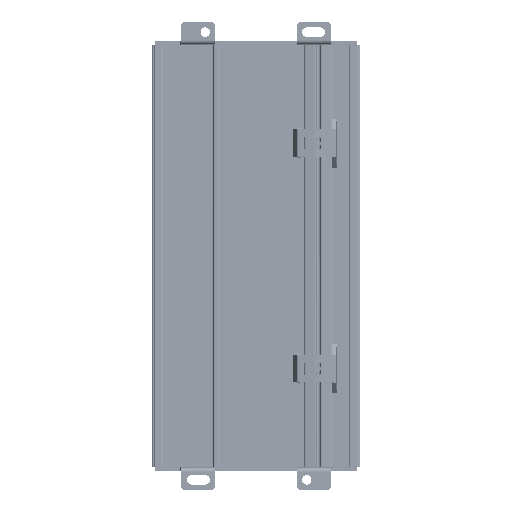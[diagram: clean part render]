
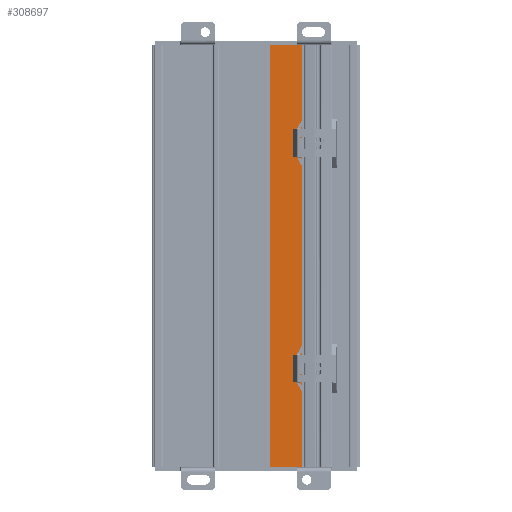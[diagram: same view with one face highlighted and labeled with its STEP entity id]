
A CAD part, front view. The second image highlights one B-rep face of the part: STEP entity #308697.
In plain terms, the highlighted planar face has unit normal (0, -1, 0).
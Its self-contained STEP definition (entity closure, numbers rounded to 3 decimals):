
#11747 = CARTESIAN_POINT ( 'NONE',  ( 20.5, -0.9, 74.778 ) ) ;
#29594 = LINE ( 'NONE', #507321, #625608 ) ;
#61481 = VECTOR ( 'NONE', #158083, 1000. ) ;
#64577 = DIRECTION ( 'NONE',  ( -1., 0., 0. ) ) ;
#71740 = EDGE_CURVE ( 'NONE', #402773, #276204, #81434, .T. ) ;
#72083 = ORIENTED_EDGE ( 'NONE', *, *, #345463, .T. ) ;
#81434 = LINE ( 'NONE', #467479, #600939 ) ;
#92819 = LINE ( 'NONE', #491258, #564308 ) ;
#95687 = VERTEX_POINT ( 'NONE', #98095 ) ;
#96789 = ORIENTED_EDGE ( 'NONE', *, *, #321233, .T. ) ;
#98095 = CARTESIAN_POINT ( 'NONE',  ( 20., -0.9, 60.25 ) ) ;
#119893 = CARTESIAN_POINT ( 'NONE',  ( 6., -0.9, -127.25 ) ) ;
#123369 = ORIENTED_EDGE ( 'NONE', *, *, #464586, .T. ) ;
#149958 = LINE ( 'NONE', #434746, #306619 ) ;
#158083 = DIRECTION ( 'NONE',  ( 1., 0., 0. ) ) ;
#204278 = CARTESIAN_POINT ( 'NONE',  ( 0., -0.9, 60.25 ) ) ;
#204380 = VERTEX_POINT ( 'NONE', #573202 ) ;
#204798 = DIRECTION ( 'NONE',  ( 0., -1., 0. ) ) ;
#254835 = LINE ( 'NONE', #204278, #465472 ) ;
#266629 = CARTESIAN_POINT ( 'NONE',  ( 20.5, -0.9, 60.25 ) ) ;
#276204 = VERTEX_POINT ( 'NONE', #119893 ) ;
#299726 = PLANE ( 'NONE',  #342703 ) ;
#305577 = ORIENTED_EDGE ( 'NONE', *, *, #335428, .T. ) ;
#306619 = VECTOR ( 'NONE', #621457, 1000. ) ;
#308697 = ADVANCED_FACE ( 'NONE', ( #492647 ), #299726, .T. ) ;
#321233 = EDGE_CURVE ( 'NONE', #204380, #570456, #351134, .T. ) ;
#335428 = EDGE_CURVE ( 'NONE', #95687, #402773, #149958, .T. ) ;
#342703 = AXIS2_PLACEMENT_3D ( 'NONE', #11747, #204798, #397777 ) ;
#345463 = EDGE_CURVE ( 'NONE', #570456, #358781, #92819, .T. ) ;
#351134 = LINE ( 'NONE', #436674, #61481 ) ;
#358781 = VERTEX_POINT ( 'NONE', #266629 ) ;
#397230 = DIRECTION ( 'NONE',  ( -1., 0., 0. ) ) ;
#397777 = DIRECTION ( 'NONE',  ( -1., 0., 0. ) ) ;
#402773 = VERTEX_POINT ( 'NONE', #604195 ) ;
#420038 = DIRECTION ( 'NONE',  ( 0., 0., -1. ) ) ;
#425937 = EDGE_CURVE ( 'NONE', #204380, #276204, #29594, .T. ) ;
#434746 = CARTESIAN_POINT ( 'NONE',  ( -50.6, -0.9, 60.25 ) ) ;
#436674 = CARTESIAN_POINT ( 'NONE',  ( 0., -0.9, -127.25 ) ) ;
#460282 = ORIENTED_EDGE ( 'NONE', *, *, #71740, .T. ) ;
#464586 = EDGE_CURVE ( 'NONE', #358781, #95687, #254835, .T. ) ;
#465472 = VECTOR ( 'NONE', #397230, 1000. ) ;
#467479 = CARTESIAN_POINT ( 'NONE',  ( 6., -0.9, 74.778 ) ) ;
#481969 = DIRECTION ( 'NONE',  ( 0., 0., 1. ) ) ;
#491258 = CARTESIAN_POINT ( 'NONE',  ( 20.5, -0.9, 74.778 ) ) ;
#492647 = FACE_OUTER_BOUND ( 'NONE', #624080, .T. ) ;
#507321 = CARTESIAN_POINT ( 'NONE',  ( -50.6, -0.9, -127.25 ) ) ;
#558950 = ORIENTED_EDGE ( 'NONE', *, *, #425937, .F. ) ;
#564308 = VECTOR ( 'NONE', #481969, 1000. ) ;
#570456 = VERTEX_POINT ( 'NONE', #578992 ) ;
#573202 = CARTESIAN_POINT ( 'NONE',  ( 20., -0.9, -127.25 ) ) ;
#578992 = CARTESIAN_POINT ( 'NONE',  ( 20.5, -0.9, -127.25 ) ) ;
#600939 = VECTOR ( 'NONE', #420038, 1000. ) ;
#604195 = CARTESIAN_POINT ( 'NONE',  ( 6., -0.9, 60.25 ) ) ;
#621457 = DIRECTION ( 'NONE',  ( -1., 0., 0. ) ) ;
#624080 = EDGE_LOOP ( 'NONE', ( #460282, #558950, #96789, #72083, #123369, #305577 ) ) ;
#625608 = VECTOR ( 'NONE', #64577, 1000. ) ;
